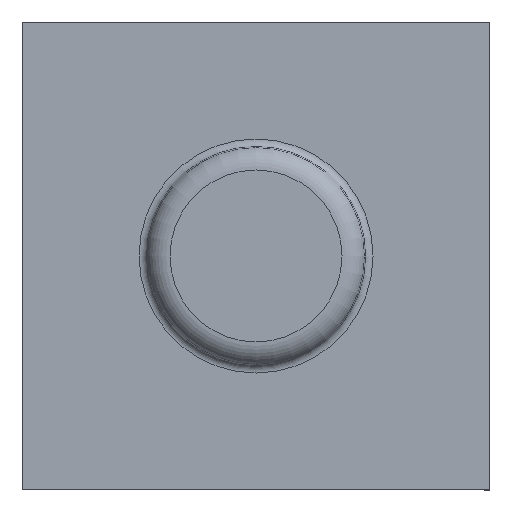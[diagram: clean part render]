
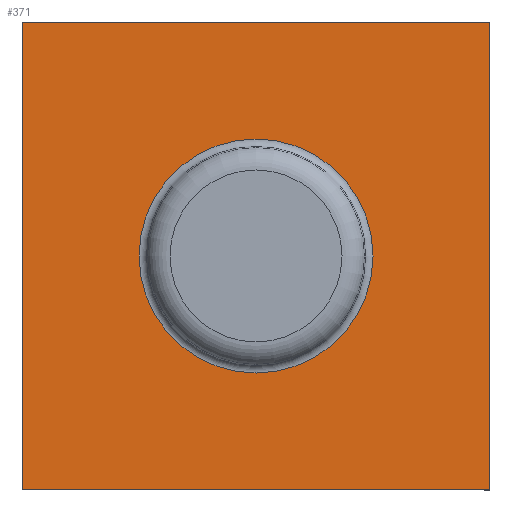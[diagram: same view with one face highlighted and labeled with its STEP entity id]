
A CAD part, top view. The second image highlights one B-rep face of the part: STEP entity #371.
In plain terms, the highlighted planar face has unit normal (0, 0, 1).
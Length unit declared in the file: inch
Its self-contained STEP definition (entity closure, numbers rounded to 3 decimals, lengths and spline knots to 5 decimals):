
#24=CARTESIAN_POINT('',(9.09784,10.34056,-0.75901));
#25=VERTEX_POINT('',#24);
#26=CARTESIAN_POINT('',(11.0973,10.34056,-0.75901));
#27=VERTEX_POINT('',#26);
#28=CARTESIAN_POINT('',(23.16,10.34056,-0.75901));
#29=DIRECTION('',(1.,0.,0.));
#30=VECTOR('',#29,1.);
#31=LINE('',#28,#30);
#32=EDGE_CURVE('',#25,#27,#31,.T.);
#111=CARTESIAN_POINT('',(11.0973,8.33982,-0.75901));
#112=VERTEX_POINT('',#111);
#113=CARTESIAN_POINT('',(11.0973,42.43558,-0.75901));
#114=DIRECTION('',(0.,1.,0.));
#115=VECTOR('',#114,1.);
#116=LINE('',#113,#115);
#117=EDGE_CURVE('',#112,#27,#116,.T.);
#315=CARTESIAN_POINT('',(9.59749,9.34009,-0.75901));
#316=VERTEX_POINT('',#315);
#324=CARTESIAN_POINT('',(10.09768,9.84027,-0.75901));
#325=VERTEX_POINT('',#324);
#326=CARTESIAN_POINT('',(10.09768,9.34009,-0.75901));
#327=DIRECTION('',(0.,0.,1.));
#328=DIRECTION('',(0.,-1.,0.));
#329=AXIS2_PLACEMENT_3D('',#326,#327,#328);
#330=CIRCLE('',#329,0.50018);
#331=EDGE_CURVE('',#316,#325,#330,.T.);
#333=EDGE_CURVE('',#325,#316,#330,.T.);
#344=ORIENTED_EDGE('',*,*,#32,.F.);
#345=CARTESIAN_POINT('',(9.09784,8.33982,-0.75901));
#346=VERTEX_POINT('',#345);
#347=CARTESIAN_POINT('',(9.09784,108.88796,-0.75901));
#348=DIRECTION('',(0.,-1.,0.));
#349=VECTOR('',#348,1.);
#350=LINE('',#347,#349);
#351=EDGE_CURVE('',#25,#346,#350,.T.);
#352=ORIENTED_EDGE('',*,*,#351,.T.);
#353=CARTESIAN_POINT('',(48.23015,8.33982,-0.75901));
#354=DIRECTION('',(1.,0.,0.));
#355=VECTOR('',#354,1.);
#356=LINE('',#353,#355);
#357=EDGE_CURVE('',#346,#112,#356,.T.);
#358=ORIENTED_EDGE('',*,*,#357,.T.);
#359=ORIENTED_EDGE('',*,*,#117,.T.);
#360=EDGE_LOOP('',(#344,#352,#358,#359));
#361=FACE_OUTER_BOUND('',#360,.T.);
#362=ORIENTED_EDGE('',*,*,#333,.F.);
#363=ORIENTED_EDGE('',*,*,#331,.F.);
#364=EDGE_LOOP('',(#362,#363));
#365=FACE_BOUND('',#364,.T.);
#366=CARTESIAN_POINT('',(-1.31132,3.71009,-0.75901));
#367=DIRECTION('',(0.,0.,-1.));
#368=DIRECTION('',(0.,1.,0.));
#369=AXIS2_PLACEMENT_3D('',#366,#367,#368);
#370=PLANE('',#369);
#371=ADVANCED_FACE('',(#361,#365),#370,.F.);
